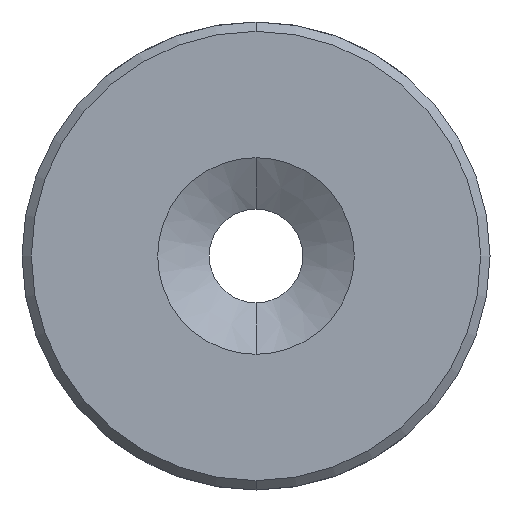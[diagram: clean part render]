
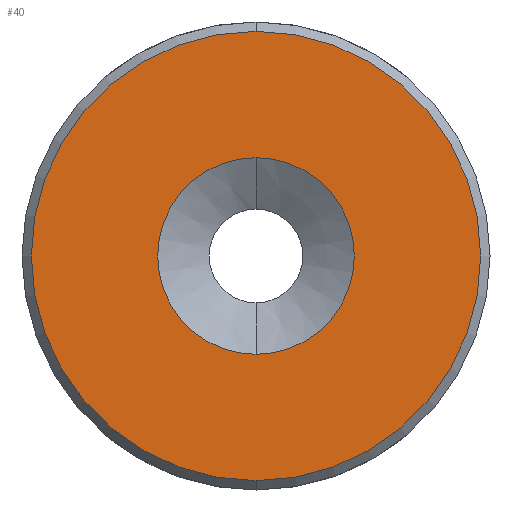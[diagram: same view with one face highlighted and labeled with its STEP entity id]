
A CAD part, front view. The second image highlights one B-rep face of the part: STEP entity #40.
In plain terms, the highlighted planar face has unit normal (0, -1, 0).
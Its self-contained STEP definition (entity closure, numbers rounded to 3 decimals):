
#40 = ADVANCED_FACE ( 'NONE', ( #1980, #801 ), #738, .F. ) ;
#140 = EDGE_CURVE ( 'NONE', #2229, #1272, #1863, .T. ) ;
#165 = CIRCLE ( 'NONE', #685, 2.1 ) ;
#333 = VERTEX_POINT ( 'NONE', #432 ) ;
#364 = EDGE_LOOP ( 'NONE', ( #2381, #2093 ) ) ;
#377 = CARTESIAN_POINT ( 'NONE',  ( 0., 0., 4.8 ) ) ;
#432 = CARTESIAN_POINT ( 'NONE',  ( 0., 0., -2.1 ) ) ;
#527 = CARTESIAN_POINT ( 'NONE',  ( 0., 0., 0. ) ) ;
#580 = DIRECTION ( 'NONE',  ( 0., 0., 1. ) ) ;
#593 = CIRCLE ( 'NONE', #1146, 4.8 ) ;
#685 = AXIS2_PLACEMENT_3D ( 'NONE', #2606, #1286, #2834 ) ;
#686 = CARTESIAN_POINT ( 'NONE',  ( 0., 0., 0. ) ) ;
#694 = AXIS2_PLACEMENT_3D ( 'NONE', #1580, #2451, #1193 ) ;
#717 = CARTESIAN_POINT ( 'NONE',  ( 0., 0., -4.8 ) ) ;
#738 = PLANE ( 'NONE',  #694 ) ;
#762 = CIRCLE ( 'NONE', #2281, 2.1 ) ;
#801 = FACE_BOUND ( 'NONE', #2193, .T. ) ;
#812 = CARTESIAN_POINT ( 'NONE',  ( 0., 0., 0. ) ) ;
#858 = EDGE_CURVE ( 'NONE', #333, #1476, #762, .T. ) ;
#981 = DIRECTION ( 'NONE',  ( 0., 0., -1. ) ) ;
#1021 = ORIENTED_EDGE ( 'NONE', *, *, #858, .F. ) ;
#1133 = DIRECTION ( 'NONE',  ( 0., -1., 0. ) ) ;
#1146 = AXIS2_PLACEMENT_3D ( 'NONE', #686, #1133, #2452 ) ;
#1193 = DIRECTION ( 'NONE',  ( 0., 0., 1. ) ) ;
#1272 = VERTEX_POINT ( 'NONE', #377 ) ;
#1286 = DIRECTION ( 'NONE',  ( 0., -1., 0. ) ) ;
#1291 = AXIS2_PLACEMENT_3D ( 'NONE', #812, #2147, #580 ) ;
#1476 = VERTEX_POINT ( 'NONE', #1988 ) ;
#1580 = CARTESIAN_POINT ( 'NONE',  ( 0., 0., 0. ) ) ;
#1618 = EDGE_CURVE ( 'NONE', #1272, #2229, #593, .T. ) ;
#1863 = CIRCLE ( 'NONE', #1291, 4.8 ) ;
#1866 = DIRECTION ( 'NONE',  ( 0., -1., 0. ) ) ;
#1980 = FACE_OUTER_BOUND ( 'NONE', #364, .T. ) ;
#1988 = CARTESIAN_POINT ( 'NONE',  ( 0., 0., 2.1 ) ) ;
#2093 = ORIENTED_EDGE ( 'NONE', *, *, #140, .T. ) ;
#2147 = DIRECTION ( 'NONE',  ( 0., -1., 0. ) ) ;
#2193 = EDGE_LOOP ( 'NONE', ( #1021, #2577 ) ) ;
#2229 = VERTEX_POINT ( 'NONE', #717 ) ;
#2281 = AXIS2_PLACEMENT_3D ( 'NONE', #527, #1866, #981 ) ;
#2381 = ORIENTED_EDGE ( 'NONE', *, *, #1618, .T. ) ;
#2451 = DIRECTION ( 'NONE',  ( 0., 1., 0. ) ) ;
#2452 = DIRECTION ( 'NONE',  ( 0., 0., 1. ) ) ;
#2577 = ORIENTED_EDGE ( 'NONE', *, *, #2884, .F. ) ;
#2606 = CARTESIAN_POINT ( 'NONE',  ( 0., 0., 0. ) ) ;
#2834 = DIRECTION ( 'NONE',  ( 0., 0., -1. ) ) ;
#2884 = EDGE_CURVE ( 'NONE', #1476, #333, #165, .T. ) ;
